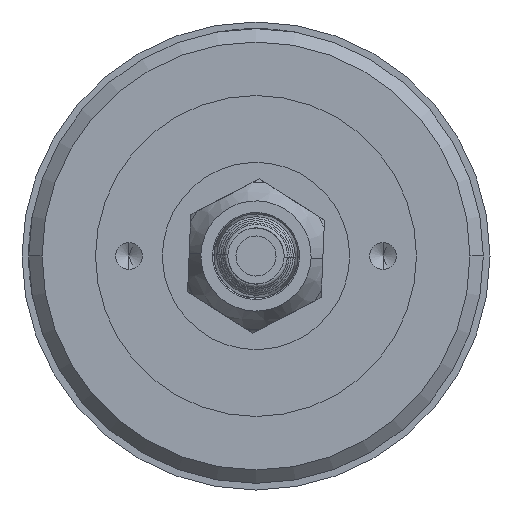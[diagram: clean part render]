
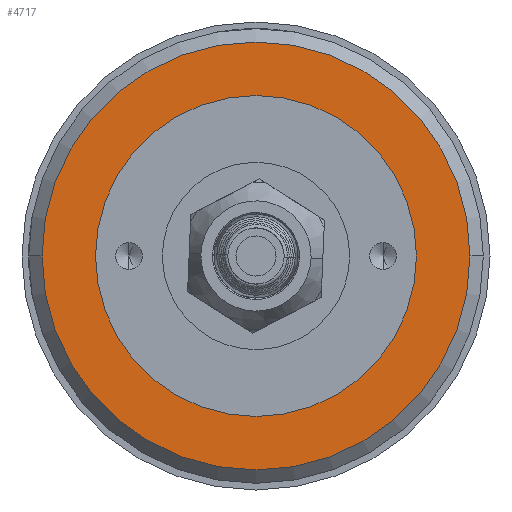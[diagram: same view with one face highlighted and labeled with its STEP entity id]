
A CAD part, left-side view. The second image highlights one B-rep face of the part: STEP entity #4717.
In plain terms, the highlighted planar face has unit normal (-1, 0, 0).
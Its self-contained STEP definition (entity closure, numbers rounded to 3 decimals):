
#5 = CARTESIAN_POINT ( 'NONE',  ( -95., 0., -24. ) ) ;
#271 = DIRECTION ( 'NONE',  ( 0., 0., -1. ) ) ;
#400 = DIRECTION ( 'NONE',  ( 0., 0., 1. ) ) ;
#814 = CARTESIAN_POINT ( 'NONE',  ( -95., 0., 0. ) ) ;
#2281 = CARTESIAN_POINT ( 'NONE',  ( -95., 0., 24. ) ) ;
#2579 = DIRECTION ( 'NONE',  ( 0., 0., -1. ) ) ;
#3211 = VERTEX_POINT ( 'NONE', #2281 ) ;
#3862 = AXIS2_PLACEMENT_3D ( 'NONE', #7562, #6555, #10589 ) ;
#4436 = FACE_OUTER_BOUND ( 'NONE', #5047, .T. ) ;
#4717 = ADVANCED_FACE ( 'NONE', ( #4436, #7652 ), #5685, .F. ) ;
#4840 = DIRECTION ( 'NONE',  ( -1., 0., 0. ) ) ;
#5047 = EDGE_LOOP ( 'NONE', ( #11397, #7504 ) ) ;
#5062 = CARTESIAN_POINT ( 'NONE',  ( -95., 0., 32. ) ) ;
#5464 = CARTESIAN_POINT ( 'NONE',  ( -95., 0., -32. ) ) ;
#5685 = PLANE ( 'NONE',  #5935 ) ;
#5935 = AXIS2_PLACEMENT_3D ( 'NONE', #9630, #8698, #2579 ) ;
#6289 = EDGE_LOOP ( 'NONE', ( #9566, #11699 ) ) ;
#6344 = EDGE_CURVE ( 'NONE', #9557, #11151, #11079, .T. ) ;
#6555 = DIRECTION ( 'NONE',  ( -1., 0., 0. ) ) ;
#7334 = DIRECTION ( 'NONE',  ( -1., 0., 0. ) ) ;
#7504 = ORIENTED_EDGE ( 'NONE', *, *, #10413, .T. ) ;
#7562 = CARTESIAN_POINT ( 'NONE',  ( -95., 0., 0. ) ) ;
#7652 = FACE_BOUND ( 'NONE', #6289, .T. ) ;
#8155 = EDGE_CURVE ( 'NONE', #3211, #9958, #11850, .T. ) ;
#8627 = CARTESIAN_POINT ( 'NONE',  ( -95., 0., 0. ) ) ;
#8698 = DIRECTION ( 'NONE',  ( 1., 0., 0. ) ) ;
#8772 = AXIS2_PLACEMENT_3D ( 'NONE', #11348, #7334, #271 ) ;
#8852 = DIRECTION ( 'NONE',  ( 0., 0., -1. ) ) ;
#9557 = VERTEX_POINT ( 'NONE', #5464 ) ;
#9566 = ORIENTED_EDGE ( 'NONE', *, *, #8155, .F. ) ;
#9630 = CARTESIAN_POINT ( 'NONE',  ( -95., 0., 0. ) ) ;
#9842 = CIRCLE ( 'NONE', #11335, 24. ) ;
#9958 = VERTEX_POINT ( 'NONE', #5 ) ;
#10231 = CIRCLE ( 'NONE', #11706, 32. ) ;
#10413 = EDGE_CURVE ( 'NONE', #11151, #9557, #10231, .T. ) ;
#10589 = DIRECTION ( 'NONE',  ( 0., 0., 1. ) ) ;
#11079 = CIRCLE ( 'NONE', #8772, 32. ) ;
#11151 = VERTEX_POINT ( 'NONE', #5062 ) ;
#11335 = AXIS2_PLACEMENT_3D ( 'NONE', #8627, #11529, #400 ) ;
#11348 = CARTESIAN_POINT ( 'NONE',  ( -95., 0., 0. ) ) ;
#11397 = ORIENTED_EDGE ( 'NONE', *, *, #6344, .T. ) ;
#11529 = DIRECTION ( 'NONE',  ( -1., 0., 0. ) ) ;
#11699 = ORIENTED_EDGE ( 'NONE', *, *, #12534, .F. ) ;
#11706 = AXIS2_PLACEMENT_3D ( 'NONE', #814, #4840, #8852 ) ;
#11850 = CIRCLE ( 'NONE', #3862, 24. ) ;
#12534 = EDGE_CURVE ( 'NONE', #9958, #3211, #9842, .T. ) ;
